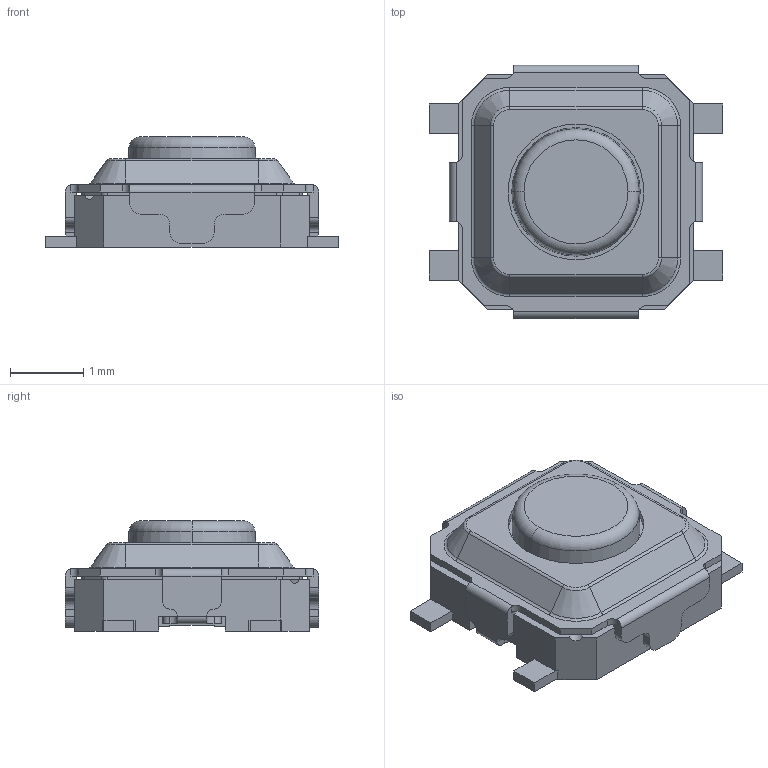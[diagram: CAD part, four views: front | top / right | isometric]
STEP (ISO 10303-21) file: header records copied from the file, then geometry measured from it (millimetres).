
FILE_DESCRIPTION((''),'2;1');
FILE_NAME('JQA3030-C0151-01BEGL-1-101_ASM','2026-06-30T11:44:14',('Admin'),(''),'CREO PARAMETRIC BY PTC INC, 2019224','CREO PARAMETRIC BY PTC INC, 2019224','');
FILE_SCHEMA(('AUTOMOTIVE_DESIGN { 1 0 10303 214 1 1 1 1 }'));
Length unit declared in the file: millimetre
Products named in the file (2): JQA3030-C0151-01BEGL-1-101_01; JQA3030-C0151-01BEGL-1-101_ASM
Assembly tree (1 placements, depth 2):
  JQA3030-C0151-01BEGL-1-101_ASM
    JQA3030-C0151-01BEGL-1-101_01
Bounding box: 4 x 3.45 x 1.5 mm (x, y, z)
Volume: 10 mm3; surface area: 68.7 mm2
Topology: 1 solids, 3 shells, 268 faces, 752 edges, 486 vertices
Faces by surface type: plane 164, cylinder 76, cone 14, torus 10, bspline 4
Entity records: 12863 total; most frequent: CARTESIAN_POINT 1692, ORIENTED_EDGE 1504, DIRECTION 1472, PRESENTATION_STYLE_ASSIGNMENT 905, STYLED_ITEM 755, CURVE_STYLE 754, EDGE_CURVE 752, VECTOR 528
